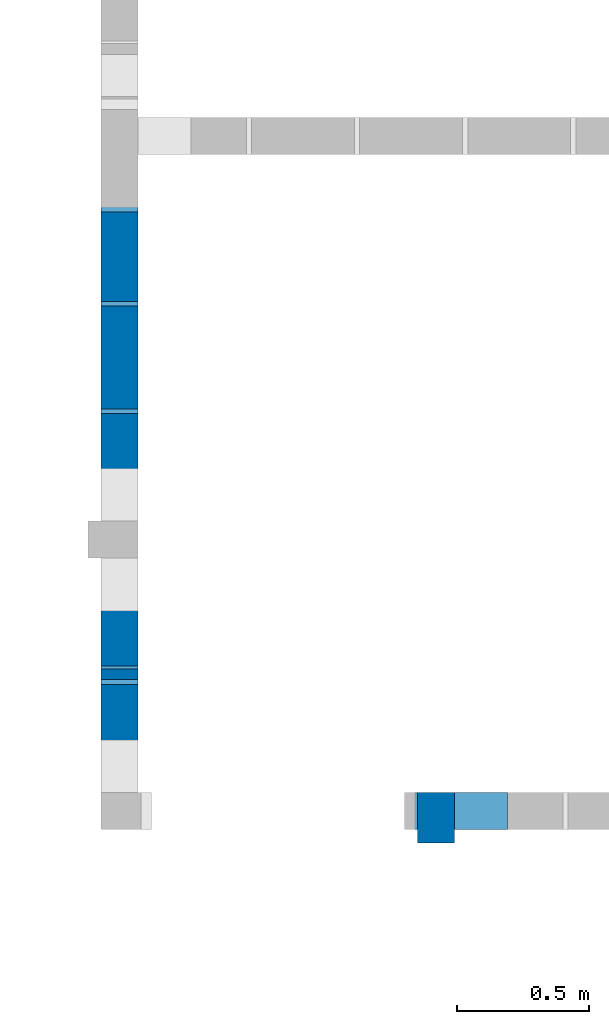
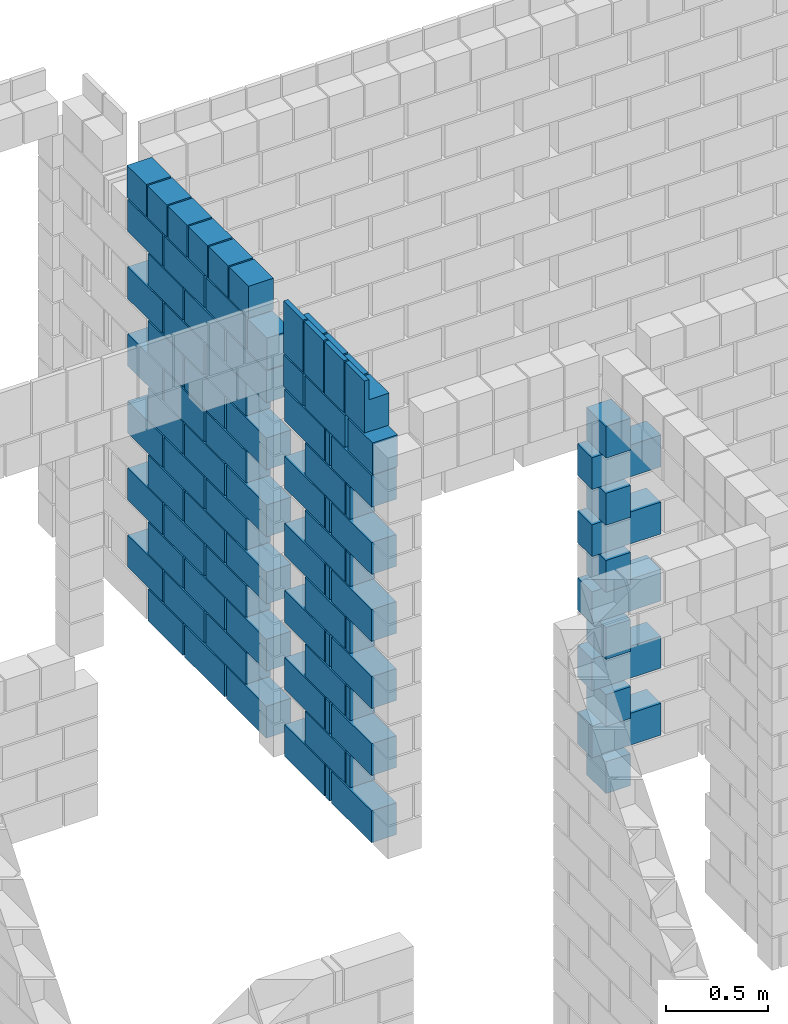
# One storey, part 9 of 12: 3 walls.
"""IFC4 building model written with IfcOpenShell, lengths in centimetres."""

from ifc_helpers import new_model, si_unit, derived_unit, frame, origin, origin_with_axes, origin_2d_with_axis, place, context, project, spatial, rectangle, extrude, element, save


model = new_model("IFC4")

# Units and contexts
model_context = context("Model", 3, precision=1e-05, world=origin_with_axes(), identifier="Body")
ifc_project = project(units=[si_unit("LENGTHUNIT", "METRE", prefix="CENTI"), si_unit("VOLUMEUNIT", "CUBIC_METRE"), si_unit("AREAUNIT", "SQUARE_METRE"), si_unit("POWERUNIT", "WATT"), si_unit("LUMINOUSFLUXUNIT", "LUMEN"), si_unit("ELECTRICCURRENTUNIT", "AMPERE"), si_unit("PRESSUREUNIT", "PASCAL", prefix="KILO"), si_unit("MASSUNIT", "GRAM", prefix="KILO"), si_unit("PLANEANGLEUNIT", "RADIAN"), derived_unit("VOLUMETRICFLOWRATEUNIT", [(si_unit("LENGTHUNIT", "METRE"), 3), (si_unit("TIMEUNIT", "SECOND"), -1)])], contexts=[model_context])

# Site, building, storey
site_placement = place(None, origin_with_axes())
site = spatial("IfcSite", under=ifc_project, at=site_placement)
building_placement = place(site_placement, origin())
building = spatial("IfcBuilding", under=site, at=building_placement)
storey_placement = place(building_placement, origin_with_axes())
storey = spatial("IfcBuildingStorey", under=building, at=storey_placement, Name="PISO", CompositionType="ELEMENT", Elevation=0.0)

# Walls
wall_1_placement = place(storey_placement, frame((411.51, 554.51, 219.0), z_axis=(0.0, 0.0, 1.0), x_axis=(1.0, 0.0, 0.0)))
element("IfcWall", 1, at=wall_1_placement, inside=storey, context=model_context, shape_type="SolidModel", body=[
    extrude(rectangle(XDim=19.0, YDim=14.0, at=origin_2d_with_axis()), frame((-7.5, 0.0, -219.0), z_axis=(0.0, 0.0, 1.0), x_axis=(0.0, -1.0, 0.0)), (0.0, 0.0, 1.0), 19.0),
    extrude(rectangle(XDim=39.0, YDim=14.0, at=origin_2d_with_axis()), frame((0.0, 2.5, -199.0), z_axis=(0.0, 0.0, 1.0), x_axis=(-1.0, 0.0, 0.0)), (0.0, 0.0, 1.0), 19.0),
    extrude(rectangle(XDim=19.0, YDim=14.0, at=origin_2d_with_axis()), frame((-7.5, 0.0, -179.0), z_axis=(0.0, 0.0, 1.0), x_axis=(0.0, -1.0, 0.0)), (0.0, 0.0, 1.0), 19.0),
    extrude(rectangle(XDim=39.0, YDim=14.0, at=origin_2d_with_axis()), frame((0.0, 2.5, -159.0), z_axis=(0.0, 0.0, 1.0), x_axis=(-1.0, 0.0, 0.0)), (0.0, 0.0, 1.0), 19.0),
    extrude(rectangle(XDim=19.0, YDim=14.0, at=origin_2d_with_axis()), frame((-7.5, 0.0, -139.0), z_axis=(0.0, 0.0, 1.0), x_axis=(0.0, -1.0, 0.0)), (0.0, 0.0, 1.0), 19.0),
    extrude(rectangle(XDim=39.0, YDim=14.0, at=origin_2d_with_axis()), frame((0.0, 2.5, -119.0), z_axis=(0.0, 0.0, 1.0), x_axis=(-1.0, 0.0, 0.0)), (0.0, 0.0, 1.0), 19.0),
    extrude(rectangle(XDim=19.0, YDim=14.0, at=origin_2d_with_axis()), frame((-7.5, 0.0, -99.0), z_axis=(0.0, 0.0, 1.0), x_axis=(0.0, -1.0, 0.0)), (0.0, 0.0, 1.0), 19.0),
    extrude(rectangle(XDim=39.0, YDim=14.0, at=origin_2d_with_axis()), frame((0.0, 2.5, -79.0), z_axis=(0.0, 0.0, 1.0), x_axis=(-1.0, 0.0, 0.0)), (0.0, 0.0, 1.0), 19.0),
    extrude(rectangle(XDim=19.0, YDim=14.0, at=origin_2d_with_axis()), frame((-7.5, 0.0, -59.0), z_axis=(0.0, 0.0, 1.0), x_axis=(0.0, -1.0, 0.0)), (0.0, 0.0, 1.0), 19.0),
    extrude(rectangle(XDim=39.0, YDim=14.0, at=origin_2d_with_axis()), frame((0.0, 2.5, -39.0), z_axis=(0.0, 0.0, 1.0), x_axis=(-1.0, 0.0, 0.0)), (0.0, 0.0, 1.0), 19.0),
    extrude(rectangle(XDim=19.0, YDim=14.0, at=origin_2d_with_axis()), frame((-7.5, 0.0, -19.0), z_axis=(0.0, 0.0, 1.0), x_axis=(0.0, -1.0, 0.0)), (0.0, 0.0, 1.0), 19.0),
])
wall_2_placement = place(storey_placement, frame((284.0, 736.51, 259.0), z_axis=(0.0, 0.0, 1.0), x_axis=(1.0, 0.0, 0.0)))
element("IfcWall", 2, at=wall_2_placement, inside=storey, Name="PAR-PISO-13", context=model_context, shape_type="SolidModel", body=[
    extrude(rectangle(XDim=34.0, YDim=14.0, at=origin_2d_with_axis()), frame((0.0, 30.75, -259.0), z_axis=(0.0, 0.0, 1.0), x_axis=(0.0, -1.0, 0.0)), (0.0, 0.0, 1.0), 19.0),
    extrude(rectangle(XDim=39.0, YDim=14.0, at=origin_2d_with_axis()), frame((0.0, -7.5, -259.0), z_axis=(0.0, 0.0, 1.0), x_axis=(0.0, -1.0, 0.0)), (0.0, 0.0, 1.0), 19.0),
    extrude(rectangle(XDim=39.0, YDim=14.0, at=origin_2d_with_axis()), frame((0.0, -48.25, -259.0), z_axis=(0.0, 0.0, 1.0), x_axis=(0.0, -1.0, 0.0)), (0.0, 0.0, 1.0), 19.0),
    extrude(rectangle(XDim=34.0, YDim=14.0, at=origin_2d_with_axis()), frame((0.0, 50.75, -239.0), z_axis=(0.0, 0.0, 1.0), x_axis=(0.0, -1.0, 0.0)), (0.0, 0.0, 1.0), 19.0),
    extrude(rectangle(XDim=39.0, YDim=14.0, at=origin_2d_with_axis()), frame((0.0, 12.5, -239.0), z_axis=(0.0, 0.0, 1.0), x_axis=(0.0, -1.0, 0.0)), (0.0, 0.0, 1.0), 19.0),
    extrude(rectangle(XDim=39.0, YDim=14.0, at=origin_2d_with_axis()), frame((0.0, -28.25, -239.0), z_axis=(0.0, 0.0, 1.0), x_axis=(0.0, -1.0, 0.0)), (0.0, 0.0, 1.0), 19.0),
    extrude(rectangle(XDim=34.0, YDim=14.0, at=origin_2d_with_axis()), frame((0.0, 30.75, -219.0), z_axis=(0.0, 0.0, 1.0), x_axis=(0.0, -1.0, 0.0)), (0.0, 0.0, 1.0), 19.0),
    extrude(rectangle(XDim=39.0, YDim=14.0, at=origin_2d_with_axis()), frame((0.0, -7.5, -219.0), z_axis=(0.0, 0.0, 1.0), x_axis=(0.0, -1.0, 0.0)), (0.0, 0.0, 1.0), 19.0),
    extrude(rectangle(XDim=39.0, YDim=14.0, at=origin_2d_with_axis()), frame((0.0, -48.25, -219.0), z_axis=(0.0, 0.0, 1.0), x_axis=(0.0, -1.0, 0.0)), (0.0, 0.0, 1.0), 19.0),
    extrude(rectangle(XDim=34.0, YDim=14.0, at=origin_2d_with_axis()), frame((0.0, 50.75, -199.0), z_axis=(0.0, 0.0, 1.0), x_axis=(0.0, -1.0, 0.0)), (0.0, 0.0, 1.0), 19.0),
    extrude(rectangle(XDim=39.0, YDim=14.0, at=origin_2d_with_axis()), frame((0.0, 12.5, -199.0), z_axis=(0.0, 0.0, 1.0), x_axis=(0.0, -1.0, 0.0)), (0.0, 0.0, 1.0), 19.0),
    extrude(rectangle(XDim=39.0, YDim=14.0, at=origin_2d_with_axis()), frame((0.0, -28.25, -199.0), z_axis=(0.0, 0.0, 1.0), x_axis=(0.0, -1.0, 0.0)), (0.0, 0.0, 1.0), 19.0),
    extrude(rectangle(XDim=34.0, YDim=14.0, at=origin_2d_with_axis()), frame((0.0, 30.75, -179.0), z_axis=(0.0, 0.0, 1.0), x_axis=(0.0, -1.0, 0.0)), (0.0, 0.0, 1.0), 19.0),
    extrude(rectangle(XDim=39.0, YDim=14.0, at=origin_2d_with_axis()), frame((0.0, -7.5, -179.0), z_axis=(0.0, 0.0, 1.0), x_axis=(0.0, -1.0, 0.0)), (0.0, 0.0, 1.0), 19.0),
    extrude(rectangle(XDim=39.0, YDim=14.0, at=origin_2d_with_axis()), frame((0.0, -48.25, -179.0), z_axis=(0.0, 0.0, 1.0), x_axis=(0.0, -1.0, 0.0)), (0.0, 0.0, 1.0), 19.0),
    extrude(rectangle(XDim=34.0, YDim=14.0, at=origin_2d_with_axis()), frame((0.0, 50.75, -159.0), z_axis=(0.0, 0.0, 1.0), x_axis=(0.0, -1.0, 0.0)), (0.0, 0.0, 1.0), 19.0),
    extrude(rectangle(XDim=39.0, YDim=14.0, at=origin_2d_with_axis()), frame((0.0, 12.5, -159.0), z_axis=(0.0, 0.0, 1.0), x_axis=(0.0, -1.0, 0.0)), (0.0, 0.0, 1.0), 19.0),
    extrude(rectangle(XDim=39.0, YDim=14.0, at=origin_2d_with_axis()), frame((0.0, -28.25, -159.0), z_axis=(0.0, 0.0, 1.0), x_axis=(0.0, -1.0, 0.0)), (0.0, 0.0, 1.0), 19.0),
    extrude(rectangle(XDim=34.0, YDim=14.0, at=origin_2d_with_axis()), frame((0.0, 30.75, -139.0), z_axis=(0.0, 0.0, 1.0), x_axis=(0.0, -1.0, 0.0)), (0.0, 0.0, 1.0), 19.0),
    extrude(rectangle(XDim=39.0, YDim=14.0, at=origin_2d_with_axis()), frame((0.0, -7.5, -139.0), z_axis=(0.0, 0.0, 1.0), x_axis=(0.0, -1.0, 0.0)), (0.0, 0.0, 1.0), 19.0),
    extrude(rectangle(XDim=39.0, YDim=14.0, at=origin_2d_with_axis()), frame((0.0, -48.25, -139.0), z_axis=(0.0, 0.0, 1.0), x_axis=(0.0, -1.0, 0.0)), (0.0, 0.0, 1.0), 19.0),
    extrude(rectangle(XDim=34.0, YDim=14.0, at=origin_2d_with_axis()), frame((0.0, 50.75, -119.0), z_axis=(0.0, 0.0, 1.0), x_axis=(0.0, -1.0, 0.0)), (0.0, 0.0, 1.0), 19.0),
    extrude(rectangle(XDim=39.0, YDim=14.0, at=origin_2d_with_axis()), frame((0.0, 12.5, -119.0), z_axis=(0.0, 0.0, 1.0), x_axis=(0.0, -1.0, 0.0)), (0.0, 0.0, 1.0), 19.0),
    extrude(rectangle(XDim=39.0, YDim=14.0, at=origin_2d_with_axis()), frame((0.0, -28.25, -119.0), z_axis=(0.0, 0.0, 1.0), x_axis=(0.0, -1.0, 0.0)), (0.0, 0.0, 1.0), 19.0),
    extrude(rectangle(XDim=34.0, YDim=14.0, at=origin_2d_with_axis()), frame((0.0, 30.75, -99.0), z_axis=(0.0, 0.0, 1.0), x_axis=(0.0, -1.0, 0.0)), (0.0, 0.0, 1.0), 19.0),
    extrude(rectangle(XDim=39.0, YDim=14.0, at=origin_2d_with_axis()), frame((0.0, -7.5, -99.0), z_axis=(0.0, 0.0, 1.0), x_axis=(0.0, -1.0, 0.0)), (0.0, 0.0, 1.0), 19.0),
    extrude(rectangle(XDim=39.0, YDim=14.0, at=origin_2d_with_axis()), frame((0.0, -48.25, -99.0), z_axis=(0.0, 0.0, 1.0), x_axis=(0.0, -1.0, 0.0)), (0.0, 0.0, 1.0), 19.0),
    extrude(rectangle(XDim=34.0, YDim=14.0, at=origin_2d_with_axis()), frame((0.0, 50.75, -79.0), z_axis=(0.0, 0.0, 1.0), x_axis=(0.0, -1.0, 0.0)), (0.0, 0.0, 1.0), 19.0),
    extrude(rectangle(XDim=39.0, YDim=14.0, at=origin_2d_with_axis()), frame((0.0, 12.5, -79.0), z_axis=(0.0, 0.0, 1.0), x_axis=(0.0, -1.0, 0.0)), (0.0, 0.0, 1.0), 19.0),
    extrude(rectangle(XDim=39.0, YDim=14.0, at=origin_2d_with_axis()), frame((0.0, -28.25, -79.0), z_axis=(0.0, 0.0, 1.0), x_axis=(0.0, -1.0, 0.0)), (0.0, 0.0, 1.0), 19.0),
    extrude(rectangle(XDim=34.0, YDim=14.0, at=origin_2d_with_axis()), frame((0.0, 30.75, -59.0), z_axis=(0.0, 0.0, 1.0), x_axis=(0.0, -1.0, 0.0)), (0.0, 0.0, 1.0), 19.0),
    extrude(rectangle(XDim=39.0, YDim=14.0, at=origin_2d_with_axis()), frame((0.0, -7.5, -59.0), z_axis=(0.0, 0.0, 1.0), x_axis=(0.0, -1.0, 0.0)), (0.0, 0.0, 1.0), 19.0),
    extrude(rectangle(XDim=39.0, YDim=14.0, at=origin_2d_with_axis()), frame((0.0, -48.25, -59.0), z_axis=(0.0, 0.0, 1.0), x_axis=(0.0, -1.0, 0.0)), (0.0, 0.0, 1.0), 19.0),
    extrude(rectangle(XDim=34.0, YDim=14.0, at=origin_2d_with_axis()), frame((0.0, 50.75, -39.0), z_axis=(0.0, 0.0, 1.0), x_axis=(0.0, -1.0, 0.0)), (0.0, 0.0, 1.0), 19.0),
    extrude(rectangle(XDim=39.0, YDim=14.0, at=origin_2d_with_axis()), frame((0.0, 12.5, -39.0), z_axis=(0.0, 0.0, 1.0), x_axis=(0.0, -1.0, 0.0)), (0.0, 0.0, 1.0), 19.0),
    extrude(rectangle(XDim=39.0, YDim=14.0, at=origin_2d_with_axis()), frame((0.0, -28.25, -39.0), z_axis=(0.0, 0.0, 1.0), x_axis=(0.0, -1.0, 0.0)), (0.0, 0.0, 1.0), 19.0),
    extrude(rectangle(XDim=19.0, YDim=14.0, at=origin_2d_with_axis()), frame((0.0, -59.0, -39.0), z_axis=(0.0, 0.0, 1.0), x_axis=(0.0, -1.0, 0.0)), (0.0, 0.0, 1.0), 19.0),
    extrude(rectangle(XDim=19.0, YDim=14.0, at=origin_2d_with_axis()), frame((0.0, 59.0, -19.0), z_axis=(0.0, 0.0, 1.0), x_axis=(0.0, -1.0, 0.0)), (0.0, 0.0, 1.0), 19.0),
    extrude(rectangle(XDim=19.0, YDim=14.0, at=origin_2d_with_axis()), frame((0.0, 39.0, -19.0), z_axis=(0.0, 0.0, 1.0), x_axis=(0.0, -1.0, 0.0)), (0.0, 0.0, 1.0), 19.0),
    extrude(rectangle(XDim=19.0, YDim=14.0, at=origin_2d_with_axis()), frame((0.0, 19.0, -19.0), z_axis=(0.0, 0.0, 1.0), x_axis=(0.0, -1.0, 0.0)), (0.0, 0.0, 1.0), 19.0),
    extrude(rectangle(XDim=19.0, YDim=14.0, at=origin_2d_with_axis()), frame((0.0, -1.0, -19.0), z_axis=(0.0, 0.0, 1.0), x_axis=(0.0, -1.0, 0.0)), (0.0, 0.0, 1.0), 19.0),
    extrude(rectangle(XDim=19.0, YDim=14.0, at=origin_2d_with_axis()), frame((0.0, -21.0, -19.0), z_axis=(0.0, 0.0, 1.0), x_axis=(0.0, -1.0, 0.0)), (0.0, 0.0, 1.0), 19.0),
    extrude(rectangle(XDim=19.0, YDim=14.0, at=origin_2d_with_axis()), frame((0.0, -41.0, -19.0), z_axis=(0.0, 0.0, 1.0), x_axis=(0.0, -1.0, 0.0)), (0.0, 0.0, 1.0), 19.0),
])
wall_3_placement = place(storey_placement, frame((284.0, 608.51, 271.0), z_axis=(0.0, 0.0, 1.0), x_axis=(1.0, 0.0, 0.0)))
element("IfcWall", 3, at=wall_3_placement, inside=storey, Name="PAR-PISO-13", context=model_context, shape_type="SolidModel", body=[
    extrude(rectangle(XDim=39.0, YDim=14.0, at=origin_2d_with_axis()), frame((0.0, 23.0, -271.0), z_axis=(0.0, 0.0, 1.0), x_axis=(0.0, -1.0, 0.0)), (0.0, 0.0, 1.0), 19.0),
    extrude(rectangle(XDim=39.0, YDim=14.0, at=origin_2d_with_axis()), frame((0.0, -23.0, -271.0), z_axis=(0.0, 0.0, 1.0), x_axis=(0.0, -1.0, 0.0)), (0.0, 0.0, 1.0), 19.0),
    extrude(rectangle(XDim=4.0, YDim=14.0, at=origin_2d_with_axis()), frame((0.0, 0.5, -271.0), z_axis=(0.0, 0.0, 1.0), x_axis=(0.0, -1.0, 0.0)), (0.0, 0.0, 1.0), 19.0),
    extrude(rectangle(XDim=39.0, YDim=14.0, at=origin_2d_with_axis()), frame((0.0, 3.0, -251.0), z_axis=(0.0, 0.0, 1.0), x_axis=(0.0, -1.0, 0.0)), (0.0, 0.0, 1.0), 19.0),
    extrude(rectangle(XDim=4.0, YDim=14.0, at=origin_2d_with_axis()), frame((0.0, -19.5, -251.0), z_axis=(0.0, 0.0, 1.0), x_axis=(0.0, -1.0, 0.0)), (0.0, 0.0, 1.0), 19.0),
    extrude(rectangle(XDim=39.0, YDim=14.0, at=origin_2d_with_axis()), frame((0.0, 23.0, -231.0), z_axis=(0.0, 0.0, 1.0), x_axis=(0.0, -1.0, 0.0)), (0.0, 0.0, 1.0), 19.0),
    extrude(rectangle(XDim=39.0, YDim=14.0, at=origin_2d_with_axis()), frame((0.0, -23.0, -231.0), z_axis=(0.0, 0.0, 1.0), x_axis=(0.0, -1.0, 0.0)), (0.0, 0.0, 1.0), 19.0),
    extrude(rectangle(XDim=4.0, YDim=14.0, at=origin_2d_with_axis()), frame((0.0, 0.5, -231.0), z_axis=(0.0, 0.0, 1.0), x_axis=(0.0, -1.0, 0.0)), (0.0, 0.0, 1.0), 19.0),
    extrude(rectangle(XDim=39.0, YDim=14.0, at=origin_2d_with_axis()), frame((0.0, 3.0, -211.0), z_axis=(0.0, 0.0, 1.0), x_axis=(0.0, -1.0, 0.0)), (0.0, 0.0, 1.0), 19.0),
    extrude(rectangle(XDim=4.0, YDim=14.0, at=origin_2d_with_axis()), frame((0.0, -19.5, -211.0), z_axis=(0.0, 0.0, 1.0), x_axis=(0.0, -1.0, 0.0)), (0.0, 0.0, 1.0), 19.0),
    extrude(rectangle(XDim=39.0, YDim=14.0, at=origin_2d_with_axis()), frame((0.0, 23.0, -191.0), z_axis=(0.0, 0.0, 1.0), x_axis=(0.0, -1.0, 0.0)), (0.0, 0.0, 1.0), 19.0),
    extrude(rectangle(XDim=39.0, YDim=14.0, at=origin_2d_with_axis()), frame((0.0, -23.0, -191.0), z_axis=(0.0, 0.0, 1.0), x_axis=(0.0, -1.0, 0.0)), (0.0, 0.0, 1.0), 19.0),
    extrude(rectangle(XDim=4.0, YDim=14.0, at=origin_2d_with_axis()), frame((0.0, 0.5, -191.0), z_axis=(0.0, 0.0, 1.0), x_axis=(0.0, -1.0, 0.0)), (0.0, 0.0, 1.0), 19.0),
    extrude(rectangle(XDim=39.0, YDim=14.0, at=origin_2d_with_axis()), frame((0.0, 3.0, -171.0), z_axis=(0.0, 0.0, 1.0), x_axis=(0.0, -1.0, 0.0)), (0.0, 0.0, 1.0), 19.0),
    extrude(rectangle(XDim=4.0, YDim=14.0, at=origin_2d_with_axis()), frame((0.0, -19.5, -171.0), z_axis=(0.0, 0.0, 1.0), x_axis=(0.0, -1.0, 0.0)), (0.0, 0.0, 1.0), 19.0),
    extrude(rectangle(XDim=39.0, YDim=14.0, at=origin_2d_with_axis()), frame((0.0, 23.0, -151.0), z_axis=(0.0, 0.0, 1.0), x_axis=(0.0, -1.0, 0.0)), (0.0, 0.0, 1.0), 19.0),
    extrude(rectangle(XDim=39.0, YDim=14.0, at=origin_2d_with_axis()), frame((0.0, -23.0, -151.0), z_axis=(0.0, 0.0, 1.0), x_axis=(0.0, -1.0, 0.0)), (0.0, 0.0, 1.0), 19.0),
    extrude(rectangle(XDim=4.0, YDim=14.0, at=origin_2d_with_axis()), frame((0.0, 0.5, -151.0), z_axis=(0.0, 0.0, 1.0), x_axis=(0.0, -1.0, 0.0)), (0.0, 0.0, 1.0), 19.0),
    extrude(rectangle(XDim=39.0, YDim=14.0, at=origin_2d_with_axis()), frame((0.0, 3.0, -131.0), z_axis=(0.0, 0.0, 1.0), x_axis=(0.0, -1.0, 0.0)), (0.0, 0.0, 1.0), 19.0),
    extrude(rectangle(XDim=4.0, YDim=14.0, at=origin_2d_with_axis()), frame((0.0, -19.5, -131.0), z_axis=(0.0, 0.0, 1.0), x_axis=(0.0, -1.0, 0.0)), (0.0, 0.0, 1.0), 19.0),
    extrude(rectangle(XDim=39.0, YDim=14.0, at=origin_2d_with_axis()), frame((0.0, 23.0, -111.0), z_axis=(0.0, 0.0, 1.0), x_axis=(0.0, -1.0, 0.0)), (0.0, 0.0, 1.0), 19.0),
    extrude(rectangle(XDim=39.0, YDim=14.0, at=origin_2d_with_axis()), frame((0.0, -23.0, -111.0), z_axis=(0.0, 0.0, 1.0), x_axis=(0.0, -1.0, 0.0)), (0.0, 0.0, 1.0), 19.0),
    extrude(rectangle(XDim=4.0, YDim=14.0, at=origin_2d_with_axis()), frame((0.0, 0.5, -111.0), z_axis=(0.0, 0.0, 1.0), x_axis=(0.0, -1.0, 0.0)), (0.0, 0.0, 1.0), 19.0),
    extrude(rectangle(XDim=39.0, YDim=14.0, at=origin_2d_with_axis()), frame((0.0, 3.0, -91.0), z_axis=(0.0, 0.0, 1.0), x_axis=(0.0, -1.0, 0.0)), (0.0, 0.0, 1.0), 19.0),
    extrude(rectangle(XDim=4.0, YDim=14.0, at=origin_2d_with_axis()), frame((0.0, -19.5, -91.0), z_axis=(0.0, 0.0, 1.0), x_axis=(0.0, -1.0, 0.0)), (0.0, 0.0, 1.0), 19.0),
    extrude(rectangle(XDim=39.0, YDim=14.0, at=origin_2d_with_axis()), frame((0.0, 23.0, -71.0), z_axis=(0.0, 0.0, 1.0), x_axis=(0.0, -1.0, 0.0)), (0.0, 0.0, 1.0), 19.0),
    extrude(rectangle(XDim=39.0, YDim=14.0, at=origin_2d_with_axis()), frame((0.0, -23.0, -71.0), z_axis=(0.0, 0.0, 1.0), x_axis=(0.0, -1.0, 0.0)), (0.0, 0.0, 1.0), 19.0),
    extrude(rectangle(XDim=4.0, YDim=14.0, at=origin_2d_with_axis()), frame((0.0, 0.5, -71.0), z_axis=(0.0, 0.0, 1.0), x_axis=(0.0, -1.0, 0.0)), (0.0, 0.0, 1.0), 19.0),
    extrude(rectangle(XDim=39.0, YDim=14.0, at=origin_2d_with_axis()), frame((0.0, 3.0, -51.0), z_axis=(0.0, 0.0, 1.0), x_axis=(0.0, -1.0, 0.0)), (0.0, 0.0, 1.0), 19.0),
    extrude(rectangle(XDim=24.0, YDim=14.0, at=origin_2d_with_axis()), frame((0.0, -31.5, -51.0), z_axis=(0.0, 0.0, 1.0), x_axis=(0.0, -1.0, 0.0)), (0.0, 0.0, 1.0), 19.0),
    extrude(rectangle(XDim=19.0, YDim=14.0, at=origin_2d_with_axis()), frame((0.0, 34.0, -51.0), z_axis=(0.0, 0.0, 1.0), x_axis=(0.0, -1.0, 0.0)), (0.0, 0.0, 1.0), 19.0),
    extrude(rectangle(XDim=19.0, YDim=2.5, at=origin_2d_with_axis()), frame((-5.75, 34.0, -12.0), z_axis=(0.0, 0.0, 1.0), x_axis=(0.0, -1.0, 0.0)), (0.0, 0.0, 1.0), 12.0),
    extrude(rectangle(XDim=19.0, YDim=14.0, at=origin_2d_with_axis()), frame((0.0, 34.0, -31.0), z_axis=(0.0, 0.0, 1.0), x_axis=(0.0, -1.0, 0.0)), (0.0, 0.0, 1.0), 19.0),
    extrude(rectangle(XDim=19.0, YDim=2.5, at=origin_2d_with_axis()), frame((-5.75, 14.0, -12.0), z_axis=(0.0, 0.0, 1.0), x_axis=(0.0, -1.0, 0.0)), (0.0, 0.0, 1.0), 12.0),
    extrude(rectangle(XDim=19.0, YDim=14.0, at=origin_2d_with_axis()), frame((0.0, 14.0, -31.0), z_axis=(0.0, 0.0, 1.0), x_axis=(0.0, -1.0, 0.0)), (0.0, 0.0, 1.0), 19.0),
    extrude(rectangle(XDim=19.0, YDim=2.5, at=origin_2d_with_axis()), frame((-5.75, -6.0, -12.0), z_axis=(0.0, 0.0, 1.0), x_axis=(0.0, -1.0, 0.0)), (0.0, 0.0, 1.0), 12.0),
    extrude(rectangle(XDim=19.0, YDim=14.0, at=origin_2d_with_axis()), frame((0.0, -6.0, -31.0), z_axis=(0.0, 0.0, 1.0), x_axis=(0.0, -1.0, 0.0)), (0.0, 0.0, 1.0), 19.0),
    extrude(rectangle(XDim=19.0, YDim=2.5, at=origin_2d_with_axis()), frame((-5.75, -26.0, -12.0), z_axis=(0.0, 0.0, 1.0), x_axis=(0.0, -1.0, 0.0)), (0.0, 0.0, 1.0), 12.0),
    extrude(rectangle(XDim=19.0, YDim=14.0, at=origin_2d_with_axis()), frame((0.0, -26.0, -31.0), z_axis=(0.0, 0.0, 1.0), x_axis=(0.0, -1.0, 0.0)), (0.0, 0.0, 1.0), 19.0),
])

save(model, "model.ifc")
